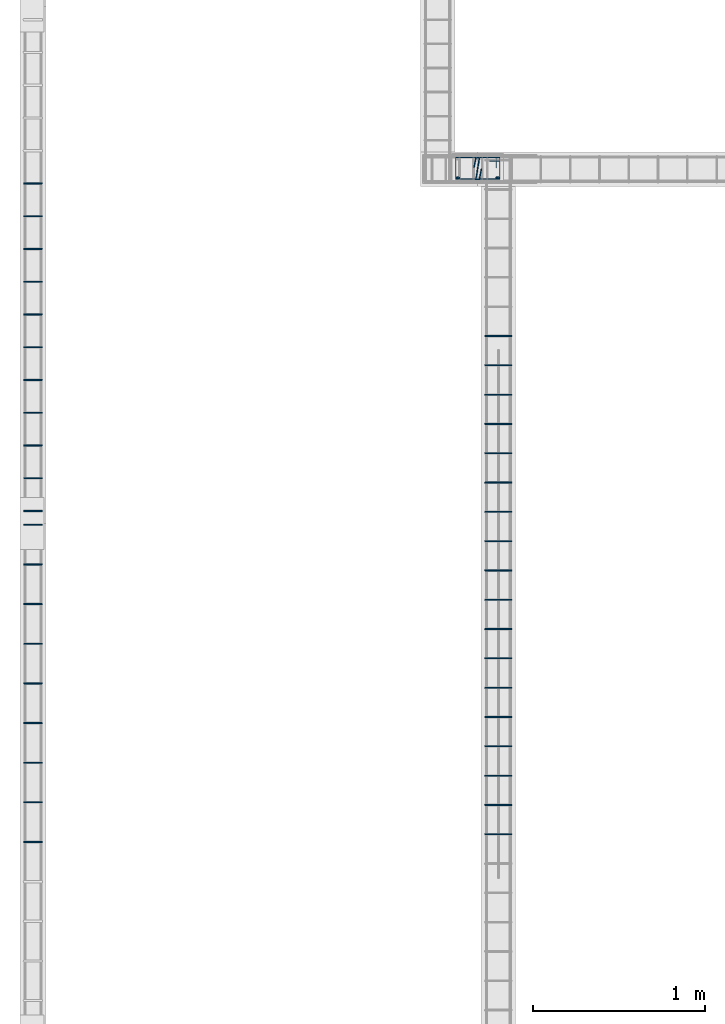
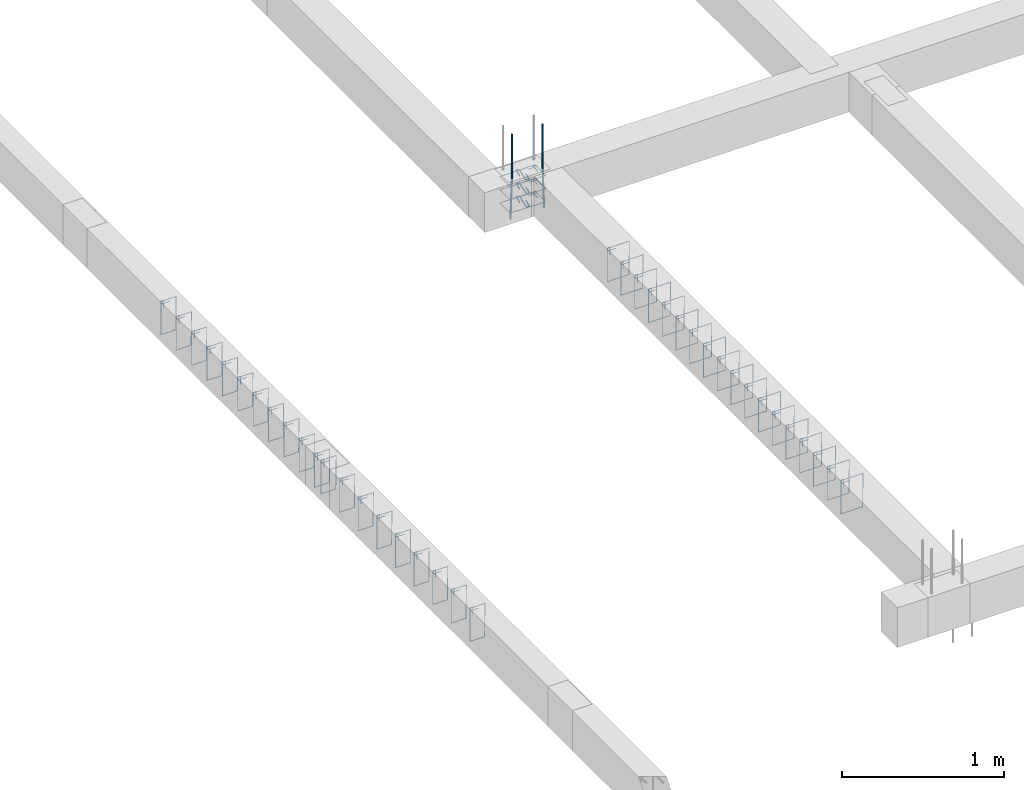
# One storey, part 66 of 150: 46 reinforcing bars.
"""IFC4 building model written with IfcOpenShell, lengths in centimetres."""

from ifc_helpers import new_model, entity, si_unit, derived_unit, frame, origin_with_axes, place, context, project, spatial, source, transform, mapped, element, save


model = new_model("IFC4")

# Units and contexts
model_context = context("Model", 3, precision=1e-05, world=origin_with_axes(), identifier="Body")
ifc_project = project(units=[si_unit("LENGTHUNIT", "METRE", prefix="CENTI"), si_unit("VOLUMEUNIT", "CUBIC_METRE"), si_unit("AREAUNIT", "SQUARE_METRE"), si_unit("POWERUNIT", "WATT"), si_unit("LUMINOUSFLUXUNIT", "LUMEN"), si_unit("ELECTRICCURRENTUNIT", "AMPERE"), si_unit("PRESSUREUNIT", "PASCAL", prefix="KILO"), si_unit("MASSUNIT", "GRAM", prefix="KILO"), si_unit("PLANEANGLEUNIT", "RADIAN"), derived_unit("VOLUMETRICFLOWRATEUNIT", [(si_unit("LENGTHUNIT", "METRE"), 3), (si_unit("TIMEUNIT", "SECOND"), -1)])], contexts=[model_context])

# Site, building, storey
site_placement = place(None, frame((-4000.0, 0.0, 0.0), z_axis=(0.0, 0.0, 1.0), x_axis=(1.0, 0.0, 0.0)))
site = spatial("IfcSite", under=ifc_project, at=site_placement, Name="PADRÃO")
building_placement = place(site_placement, frame((0.0, 0.0, -14.0)))
building = spatial("IfcBuilding", under=site, at=building_placement, Name="CRECHE PRÉ-ESCOLA TIPO 2")
placement = place(building_placement, origin_with_axes())
storey_placement = place(placement, frame((0.0, 0.0, 30.0), z_axis=(0.0, 0.0, 1.0), x_axis=(1.0, 0.0, 0.0)))
storey = spatial("IfcBuildingStorey", under=building, at=storey_placement, Name="VIGA BALDRAME", CompositionType="ELEMENT", Elevation=16.0)

# Reinforcing bars
shared_shape_1 = source(origin_with_axes(), model_context, "Body", "AdvancedSweptSolid", [
    entity("IfcSweptDiskSolid", entity("IfcCompositeCurve", [entity("IfcCompositeCurveSegment", "CONTINUOUS", True, entity("IfcPolyline", [entity("IfcCartesianPoint", [4.25, 21.75, 0.0]), entity("IfcCartesianPoint", [4.25, 27.75, 0.0])])), entity("IfcCompositeCurveSegment", "CONTINUOUS", True, entity("IfcPolyline", [entity("IfcCartesianPoint", [4.25, 27.75, 0.0]), entity("IfcCartesianPoint", [2.25, 27.75, 0.0])])), entity("IfcCompositeCurveSegment", "CONTINUOUS", True, entity("IfcPolyline", [entity("IfcCartesianPoint", [2.25, 27.75, 0.0]), entity("IfcCartesianPoint", [2.25, 2.25, 0.0])])), entity("IfcCompositeCurveSegment", "CONTINUOUS", True, entity("IfcPolyline", [entity("IfcCartesianPoint", [2.25, 2.25, 0.0]), entity("IfcCartesianPoint", [14.75, 2.25, 0.0])])), entity("IfcCompositeCurveSegment", "CONTINUOUS", True, entity("IfcPolyline", [entity("IfcCartesianPoint", [14.75, 2.25, 0.0]), entity("IfcCartesianPoint", [14.75, 27.75, -0.5])])), entity("IfcCompositeCurveSegment", "CONTINUOUS", True, entity("IfcPolyline", [entity("IfcCartesianPoint", [14.75, 27.75, -0.5]), entity("IfcCartesianPoint", [2.25, 27.75, -0.5])])), entity("IfcCompositeCurveSegment", "CONTINUOUS", True, entity("IfcPolyline", [entity("IfcCartesianPoint", [2.25, 27.75, -0.5]), entity("IfcCartesianPoint", [2.25, 25.75, -0.5])])), entity("IfcCompositeCurveSegment", "CONTINUOUS", True, entity("IfcPolyline", [entity("IfcCartesianPoint", [2.25, 25.75, -0.5]), entity("IfcCartesianPoint", [8.25, 25.75, -0.5])]))], False), 0.25),
])
for number, where, z_axis, x_axis, name in (
    (1, (252.0, 3209.0, -15.0), (0.0, 0.0, 1.0), (0.0, -1.0, 0.0), "P47 - Estribo"),
    (2, (252.0, 3209.0, -25.0), (0.0, 0.0, 1.0), (0.0, -1.0, 0.0), "P47 - Estribo"),
    (3, (252.0, 3209.0, -5.0), (0.0, 0.0, 1.0), (0.0, -1.0, 0.0), "P47 - Estribo"),
):
    element("IfcReinforcingBar", number, at=place(storey_placement, frame(where, z_axis=z_axis, x_axis=x_axis)), inside=storey, Name=name, BarLength=0.0, CrossSectionArea=1.9634954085e-05, NominalDiameter=0.5, PredefinedType="MAIN", context=model_context, shape_type="MappedRepresentation", body=[
        mapped(shared_shape_1, transform((0.0, 0.0, 0.0), scale=1.0)),
    ])
shared_shape_2 = source(origin_with_axes(), model_context, "Body", "AdvancedSweptSolid", [
    entity("IfcSweptDiskSolid", entity("IfcCompositeCurve", [entity("IfcCompositeCurveSegment", "CONTINUOUS", True, entity("IfcPolyline", [entity("IfcCartesianPoint", [8.81925062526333, 17.1913887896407, 0.0]), entity("IfcCartesianPoint", [14.75, 16.0, 0.0])])), entity("IfcCompositeCurveSegment", "CONTINUOUS", True, entity("IfcPolyline", [entity("IfcCartesianPoint", [14.75, 16.0, 0.0]), entity("IfcCartesianPoint", [14.75, 14.0, 0.0])])), entity("IfcCompositeCurveSegment", "CONTINUOUS", True, entity("IfcPolyline", [entity("IfcCartesianPoint", [14.75, 14.0, 0.0]), entity("IfcCartesianPoint", [2.25, 16.0, 0.0])])), entity("IfcCompositeCurveSegment", "CONTINUOUS", True, entity("IfcPolyline", [entity("IfcCartesianPoint", [2.25, 16.0, 0.0]), entity("IfcCartesianPoint", [2.25, 14.0, 0.0])])), entity("IfcCompositeCurveSegment", "CONTINUOUS", True, entity("IfcPolyline", [entity("IfcCartesianPoint", [2.25, 14.0, 0.0]), entity("IfcCartesianPoint", [8.1807493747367, 12.8086112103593, 0.0])]))], False), 0.25),
])
for number, where, z_axis, x_axis, name in (
    (4, (252.0, 3209.0, -4.5), (0.0, 0.0, 1.0), (0.0, -1.0, 0.0), "P47 - Grampo"),
    (5, (252.0, 3209.0, -14.5), (0.0, 0.0, 1.0), (0.0, -1.0, 0.0), "P47 - Grampo"),
    (6, (252.0, 3209.0, -24.5), (0.0, 0.0, 1.0), (0.0, -1.0, 0.0), "P47 - Grampo"),
):
    element("IfcReinforcingBar", number, at=place(storey_placement, frame(where, z_axis=z_axis, x_axis=x_axis)), inside=storey, Name=name, BarLength=0.0, CrossSectionArea=1.9634954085e-05, NominalDiameter=0.5, PredefinedType="MAIN", context=model_context, shape_type="MappedRepresentation", body=[
        mapped(shared_shape_2, transform((0.0, 0.0, 0.0), scale=1.0)),
    ])
shared_shape_3 = source(origin_with_axes(), model_context, "Body", "AdvancedSweptSolid", [
    entity("IfcSweptDiskSolid", entity("IfcCompositeCurve", [entity("IfcCompositeCurveSegment", "CONTINUOUS", True, entity("IfcPolyline", [entity("IfcCartesianPoint", [2.0, -6.0, 0.0]), entity("IfcCartesianPoint", [2.0, 0.0, 0.0])])), entity("IfcCompositeCurveSegment", "CONTINUOUS", True, entity("IfcPolyline", [entity("IfcCartesianPoint", [2.0, 0.0, 0.0]), entity("IfcCartesianPoint", [0.0, 0.0, 0.0])])), entity("IfcCompositeCurveSegment", "CONTINUOUS", True, entity("IfcPolyline", [entity("IfcCartesianPoint", [0.0, 0.0, 0.0]), entity("IfcCartesianPoint", [0.0, -25.5, 0.0])])), entity("IfcCompositeCurveSegment", "CONTINUOUS", True, entity("IfcPolyline", [entity("IfcCartesianPoint", [0.0, -25.5, 0.0]), entity("IfcCartesianPoint", [15.5, -25.5, 0.0])])), entity("IfcCompositeCurveSegment", "CONTINUOUS", True, entity("IfcPolyline", [entity("IfcCartesianPoint", [15.5, -25.5, 0.0]), entity("IfcCartesianPoint", [15.5, 0.0, 0.5])])), entity("IfcCompositeCurveSegment", "CONTINUOUS", True, entity("IfcPolyline", [entity("IfcCartesianPoint", [15.5, 0.0, 0.5]), entity("IfcCartesianPoint", [0.0, 0.0, 0.5])])), entity("IfcCompositeCurveSegment", "CONTINUOUS", True, entity("IfcPolyline", [entity("IfcCartesianPoint", [0.0, 0.0, 0.5]), entity("IfcCartesianPoint", [0.0, -2.0, 0.5])])), entity("IfcCompositeCurveSegment", "CONTINUOUS", True, entity("IfcPolyline", [entity("IfcCartesianPoint", [0.0, -2.0, 0.5]), entity("IfcCartesianPoint", [6.0, -2.0, 0.5])]))], False), 0.25),
])
for number, where, z_axis, x_axis, name in (
    (7, (271.25, 2950.505, -2.25), (0.0, -1.0, 0.0), (1.0, 0.0, 0.0), "V163 - Estribo"),
    (8, (271.25, 2933.505, -2.25), (0.0, -1.0, 0.0), (1.0, 0.0, 0.0), "V163 - Estribo"),
    (9, (271.25, 2916.505, -2.25), (0.0, -1.0, 0.0), (1.0, 0.0, 0.0), "V163 - Estribo"),
    (10, (271.25, 2899.505, -2.25), (0.0, -1.0, 0.0), (1.0, 0.0, 0.0), "V163 - Estribo"),
    (11, (271.25, 2882.505, -2.25), (0.0, -1.0, 0.0), (1.0, 0.0, 0.0), "V163 - Estribo"),
    (12, (271.25, 2865.505, -2.25), (0.0, -1.0, 0.0), (1.0, 0.0, 0.0), "V163 - Estribo"),
    (13, (271.25, 2848.505, -2.25), (0.0, -1.0, 0.0), (1.0, 0.0, 0.0), "V163 - Estribo"),
    (14, (271.25, 2814.505, -2.25), (0.0, -1.0, 0.0), (1.0, 0.0, 0.0), "V163 - Estribo"),
    (15, (271.25, 2831.505, -2.25), (0.0, -1.0, 0.0), (1.0, 0.0, 0.0), "V163 - Estribo"),
    (16, (271.25, 3035.505, -2.25), (0.0, -1.0, 0.0), (1.0, 0.0, 0.0), "V163 - Estribo"),
    (17, (271.25, 3103.505, -2.25), (0.0, -1.0, 0.0), (1.0, 0.0, 0.0), "V163 - Estribo"),
    (18, (271.25, 3018.505, -2.25), (0.0, -1.0, 0.0), (1.0, 0.0, 0.0), "V163 - Estribo"),
    (19, (271.25, 2967.505, -2.25), (0.0, -1.0, 0.0), (1.0, 0.0, 0.0), "V163 - Estribo"),
    (20, (271.25, 3001.505, -2.25), (0.0, -1.0, 0.0), (1.0, 0.0, 0.0), "V163 - Estribo"),
    (21, (271.25, 3052.505, -2.25), (0.0, -1.0, 0.0), (1.0, 0.0, 0.0), "V163 - Estribo"),
    (22, (271.25, 2984.505, -2.25), (0.0, -1.0, 0.0), (1.0, 0.0, 0.0), "V163 - Estribo"),
    (23, (271.25, 3069.505, -2.25), (0.0, -1.0, 0.0), (1.0, 0.0, 0.0), "V163 - Estribo"),
    (24, (271.25, 3086.505, -2.25), (0.0, -1.0, 0.0), (1.0, 0.0, 0.0), "V163 - Estribo"),
):
    element("IfcReinforcingBar", number, at=place(storey_placement, frame(where, z_axis=z_axis, x_axis=x_axis)), inside=storey, Name=name, BarLength=0.0, CrossSectionArea=1.9634954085e-05, NominalDiameter=0.5, PredefinedType="MAIN", context=model_context, shape_type="MappedRepresentation", body=[
        mapped(shared_shape_3, transform((0.0, 0.0, 0.0), scale=1.0)),
    ])
shared_shape_4 = source(origin_with_axes(), model_context, "Body", "AdvancedSweptSolid", [
    entity("IfcSweptDiskSolid", entity("IfcCompositeCurve", [entity("IfcCompositeCurveSegment", "CONTINUOUS", True, entity("IfcPolyline", [entity("IfcCartesianPoint", [2.0, -6.0, 0.0]), entity("IfcCartesianPoint", [2.0, 0.0, 0.0])])), entity("IfcCompositeCurveSegment", "CONTINUOUS", True, entity("IfcPolyline", [entity("IfcCartesianPoint", [2.0, 0.0, 0.0]), entity("IfcCartesianPoint", [0.0, 0.0, 0.0])])), entity("IfcCompositeCurveSegment", "CONTINUOUS", True, entity("IfcPolyline", [entity("IfcCartesianPoint", [0.0, 0.0, 0.0]), entity("IfcCartesianPoint", [0.0, -25.5, 0.0])])), entity("IfcCompositeCurveSegment", "CONTINUOUS", True, entity("IfcPolyline", [entity("IfcCartesianPoint", [0.0, -25.5, 0.0]), entity("IfcCartesianPoint", [10.5, -25.5, 0.0])])), entity("IfcCompositeCurveSegment", "CONTINUOUS", True, entity("IfcPolyline", [entity("IfcCartesianPoint", [10.5, -25.5, 0.0]), entity("IfcCartesianPoint", [10.5, 0.0, 0.5])])), entity("IfcCompositeCurveSegment", "CONTINUOUS", True, entity("IfcPolyline", [entity("IfcCartesianPoint", [10.5, 0.0, 0.5]), entity("IfcCartesianPoint", [0.0, 0.0, 0.5])])), entity("IfcCompositeCurveSegment", "CONTINUOUS", True, entity("IfcPolyline", [entity("IfcCartesianPoint", [0.0, 0.0, 0.5]), entity("IfcCartesianPoint", [0.0, -2.0, 0.5])])), entity("IfcCompositeCurveSegment", "CONTINUOUS", True, entity("IfcPolyline", [entity("IfcCartesianPoint", [0.0, -2.0, 0.5]), entity("IfcCartesianPoint", [6.0, -2.0, 0.5])]))], False), 0.25),
])
for number, where, z_axis, x_axis, name in (
    (25, (3.75, 2810.0, -2.25), (0.0, -1.0, 0.0), (1.0, 0.0, 0.0), "V159 - Estribo"),
    (26, (3.75, 2833.0, -2.25), (0.0, -1.0, 0.0), (1.0, 0.0, 0.0), "V159 - Estribo"),
    (27, (3.75, 2856.0, -2.25), (0.0, -1.0, 0.0), (1.0, 0.0, 0.0), "V159 - Estribo"),
    (28, (3.75, 2879.0, -2.25), (0.0, -1.0, 0.0), (1.0, 0.0, 0.0), "V159 - Estribo"),
    (29, (3.75, 2902.0, -2.25), (0.0, -1.0, 0.0), (1.0, 0.0, 0.0), "V159 - Estribo"),
    (30, (3.75, 2925.0, -2.25), (0.0, -1.0, 0.0), (1.0, 0.0, 0.0), "V159 - Estribo"),
    (31, (3.75, 2948.0, -2.25), (0.0, -1.0, 0.0), (1.0, 0.0, 0.0), "V159 - Estribo"),
    (32, (3.75, 2971.0, -2.25), (0.0, -1.0, 0.0), (1.0, 0.0, 0.0), "V159 - Estribo"),
    (33, (3.75, 2994.0, -2.25), (0.0, -1.0, 0.0), (1.0, 0.0, 0.0), "V159 - Estribo"),
):
    element("IfcReinforcingBar", number, at=place(storey_placement, frame(where, z_axis=z_axis, x_axis=x_axis)), inside=storey, Name=name, BarLength=0.0, CrossSectionArea=1.9634954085e-05, NominalDiameter=0.5, PredefinedType="MAIN", context=model_context, shape_type="MappedRepresentation", body=[
        mapped(shared_shape_4, transform((0.0, 0.0, 0.0), scale=1.0)),
    ])
shared_shape_5 = source(origin_with_axes(), model_context, "Body", "AdvancedSweptSolid", [
    entity("IfcSweptDiskSolid", entity("IfcCompositeCurve", [entity("IfcCompositeCurveSegment", "CONTINUOUS", True, entity("IfcPolyline", [entity("IfcCartesianPoint", [2.0, -6.0, 0.0]), entity("IfcCartesianPoint", [2.0, 0.0, 0.0])])), entity("IfcCompositeCurveSegment", "CONTINUOUS", True, entity("IfcPolyline", [entity("IfcCartesianPoint", [2.0, 0.0, 0.0]), entity("IfcCartesianPoint", [0.0, 0.0, 0.0])])), entity("IfcCompositeCurveSegment", "CONTINUOUS", True, entity("IfcPolyline", [entity("IfcCartesianPoint", [0.0, 0.0, 0.0]), entity("IfcCartesianPoint", [0.0, -25.5, 0.0])])), entity("IfcCompositeCurveSegment", "CONTINUOUS", True, entity("IfcPolyline", [entity("IfcCartesianPoint", [0.0, -25.5, 0.0]), entity("IfcCartesianPoint", [10.5, -25.5, 0.0])])), entity("IfcCompositeCurveSegment", "CONTINUOUS", True, entity("IfcPolyline", [entity("IfcCartesianPoint", [10.5, -25.5, 0.0]), entity("IfcCartesianPoint", [10.5, 0.0, 0.5])])), entity("IfcCompositeCurveSegment", "CONTINUOUS", True, entity("IfcPolyline", [entity("IfcCartesianPoint", [10.5, 0.0, 0.5]), entity("IfcCartesianPoint", [0.0, 0.0, 0.5])])), entity("IfcCompositeCurveSegment", "CONTINUOUS", True, entity("IfcPolyline", [entity("IfcCartesianPoint", [0.0, 0.0, 0.5]), entity("IfcCartesianPoint", [0.0, -2.0, 0.5])])), entity("IfcCompositeCurveSegment", "CONTINUOUS", True, entity("IfcPolyline", [entity("IfcCartesianPoint", [0.0, -2.0, 0.5]), entity("IfcCartesianPoint", [6.0, -2.0, 0.5])]))], False), 0.25),
])
for number, where, z_axis, x_axis, name in (
    (34, (3.75, 3002.0, -2.25), (0.0, -1.0, 0.0), (1.0, 0.0, 0.0), "V159 - Estribo"),
    (35, (3.75, 3021.0, -2.25), (0.0, -1.0, 0.0), (1.0, 0.0, 0.0), "V159 - Estribo"),
    (36, (3.75, 3040.0, -2.25), (0.0, -1.0, 0.0), (1.0, 0.0, 0.0), "V159 - Estribo"),
    (37, (3.75, 3059.0, -2.25), (0.0, -1.0, 0.0), (1.0, 0.0, 0.0), "V159 - Estribo"),
    (38, (3.75, 3078.0, -2.25), (0.0, -1.0, 0.0), (1.0, 0.0, 0.0), "V159 - Estribo"),
    (39, (3.75, 3097.0, -2.25), (0.0, -1.0, 0.0), (1.0, 0.0, 0.0), "V159 - Estribo"),
    (40, (3.75, 3116.0, -2.25), (0.0, -1.0, 0.0), (1.0, 0.0, 0.0), "V159 - Estribo"),
    (41, (3.75, 3135.0, -2.25), (0.0, -1.0, 0.0), (1.0, 0.0, 0.0), "V159 - Estribo"),
    (42, (3.75, 3154.0, -2.25), (0.0, -1.0, 0.0), (1.0, 0.0, 0.0), "V159 - Estribo"),
    (43, (3.75, 3173.0, -2.25), (0.0, -1.0, 0.0), (1.0, 0.0, 0.0), "V159 - Estribo"),
    (44, (3.75, 3192.0, -2.25), (0.0, -1.0, 0.0), (1.0, 0.0, 0.0), "V159 - Estribo"),
):
    element("IfcReinforcingBar", number, at=place(storey_placement, frame(where, z_axis=z_axis, x_axis=x_axis)), inside=storey, Name=name, BarLength=0.0, CrossSectionArea=1.9634954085e-05, NominalDiameter=0.5, PredefinedType="MAIN", context=model_context, shape_type="MappedRepresentation", body=[
        mapped(shared_shape_5, transform((0.0, 0.0, 0.0), scale=1.0)),
    ])
reinforcing_bar_1_placement = place(storey_placement, frame((278.499861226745, 3195.0, 33.3573001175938), z_axis=(0.0, 0.0, 1.0), x_axis=(1.0, 0.0, 0.0)))
element("IfcReinforcingBar", 45, at=reinforcing_bar_1_placement, inside=storey, Name="P47 - Longitudinal", BarLength=0.0, CrossSectionArea=7.853981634e-05, NominalDiameter=1.0, PredefinedType="MAIN", context=model_context, shape_type="AdvancedSweptSolid", body=[
    entity("IfcSweptDiskSolid", entity("IfcCompositeCurve", [entity("IfcCompositeCurveSegment", "CONTINUOUS", True, entity("IfcPolyline", [entity("IfcCartesianPoint", [0.50013877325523, 0.0, -63.3573001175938]), entity("IfcCartesianPoint", [-0.49986122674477, 0.0, -33.3573001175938])])), entity("IfcCompositeCurveSegment", "CONTINUOUS", True, entity("IfcPolyline", [entity("IfcCartesianPoint", [-0.49986122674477, 0.0, -33.3573001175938]), entity("IfcCartesianPoint", [-0.49986122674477, 0.0, 0.0])]))], False), 0.5),
])
reinforcing_bar_2_placement = place(storey_placement, frame((255.500138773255, 3195.0, 33.3573001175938), z_axis=(0.0, 0.0, 1.0), x_axis=(1.0, 0.0, 0.0)))
element("IfcReinforcingBar", 46, at=reinforcing_bar_2_placement, inside=storey, Name="P47 - Longitudinal", BarLength=0.0, CrossSectionArea=7.853981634e-05, NominalDiameter=1.0, PredefinedType="MAIN", context=model_context, shape_type="AdvancedSweptSolid", body=[
    entity("IfcSweptDiskSolid", entity("IfcCompositeCurve", [entity("IfcCompositeCurveSegment", "CONTINUOUS", True, entity("IfcPolyline", [entity("IfcCartesianPoint", [-0.50013877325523, 0.0, -63.3573001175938]), entity("IfcCartesianPoint", [0.49986122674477, 0.0, -33.3573001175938])])), entity("IfcCompositeCurveSegment", "CONTINUOUS", True, entity("IfcPolyline", [entity("IfcCartesianPoint", [0.49986122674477, 0.0, -33.3573001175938]), entity("IfcCartesianPoint", [0.49986122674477, 0.0, 0.0])]))], False), 0.5),
])

save(model, "model.ifc")
